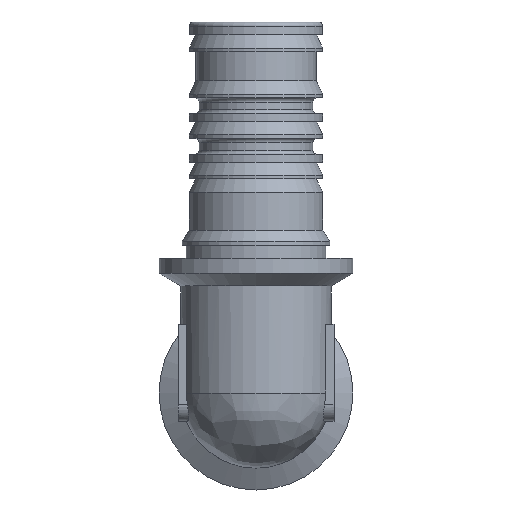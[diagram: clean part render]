
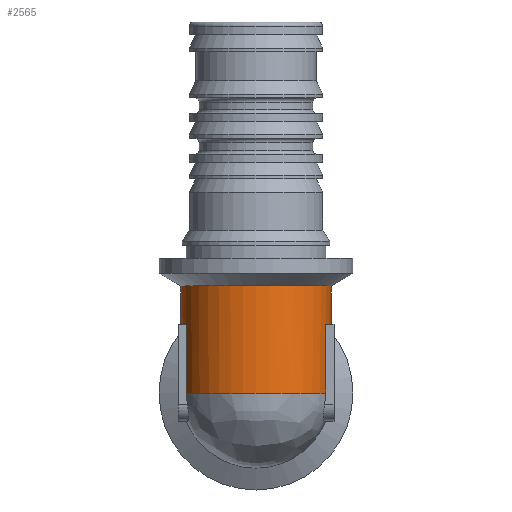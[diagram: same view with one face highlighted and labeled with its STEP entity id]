
A CAD part, front view. The second image highlights one B-rep face of the part: STEP entity #2565.
In plain terms, the highlighted cylindrical face has radius 8.9 mm (diameter 17.8 mm), a full revolution.
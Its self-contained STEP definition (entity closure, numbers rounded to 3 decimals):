
#217=FACE_OUTER_BOUND('',#368,.T.);
#368=EDGE_LOOP('',(#1955,#1956,#1957,#1958,#1959,#1960,#1961,#1962,#1963,
#1964,#1965,#1966,#1967,#1968));
#574=CIRCLE('',#2815,8.9);
#575=CIRCLE('',#2816,8.9);
#576=CIRCLE('',#2817,8.9);
#577=CIRCLE('',#2818,8.9);
#585=CIRCLE('',#2828,8.9);
#586=CIRCLE('',#2830,8.9);
#587=CIRCLE('',#2831,8.9);
#698=LINE('',#4216,#872);
#699=LINE('',#4220,#873);
#700=LINE('',#4224,#874);
#701=LINE('',#4227,#875);
#702=LINE('',#4229,#876);
#872=VECTOR('',#3323,8.9);
#873=VECTOR('',#3326,10.);
#874=VECTOR('',#3329,10.);
#875=VECTOR('',#3332,10.);
#876=VECTOR('',#3333,10.);
#1024=ELLIPSE('',#2829,12.587,8.9);
#1113=VERTEX_POINT('',#4074);
#1114=VERTEX_POINT('',#4075);
#1115=VERTEX_POINT('',#4077);
#1117=VERTEX_POINT('',#4097);
#1118=VERTEX_POINT('',#4102);
#1133=VERTEX_POINT('',#4215);
#1134=VERTEX_POINT('',#4217);
#1135=VERTEX_POINT('',#4219);
#1136=VERTEX_POINT('',#4221);
#1137=VERTEX_POINT('',#4223);
#1138=VERTEX_POINT('',#4225);
#1139=VERTEX_POINT('',#4228);
#1422=EDGE_CURVE('',#1113,#1114,#574,.T.);
#1423=EDGE_CURVE('',#1115,#1113,#575,.T.);
#1424=EDGE_CURVE('',#1114,#1115,#576,.T.);
#1427=EDGE_CURVE('',#1118,#1117,#577,.T.);
#1445=EDGE_CURVE('',#1115,#1133,#698,.T.);
#1446=EDGE_CURVE('',#1133,#1134,#585,.T.);
#1447=EDGE_CURVE('',#1134,#1135,#699,.T.);
#1448=EDGE_CURVE('',#1136,#1135,#1024,.T.);
#1449=EDGE_CURVE('',#1136,#1137,#700,.T.);
#1450=EDGE_CURVE('',#1137,#1138,#586,.T.);
#1451=EDGE_CURVE('',#1138,#1118,#701,.T.);
#1452=EDGE_CURVE('',#1117,#1139,#702,.T.);
#1453=EDGE_CURVE('',#1139,#1133,#587,.T.);
#1955=ORIENTED_EDGE('',*,*,#1422,.T.);
#1956=ORIENTED_EDGE('',*,*,#1424,.T.);
#1957=ORIENTED_EDGE('',*,*,#1445,.T.);
#1958=ORIENTED_EDGE('',*,*,#1446,.T.);
#1959=ORIENTED_EDGE('',*,*,#1447,.T.);
#1960=ORIENTED_EDGE('',*,*,#1448,.F.);
#1961=ORIENTED_EDGE('',*,*,#1449,.T.);
#1962=ORIENTED_EDGE('',*,*,#1450,.T.);
#1963=ORIENTED_EDGE('',*,*,#1451,.T.);
#1964=ORIENTED_EDGE('',*,*,#1427,.T.);
#1965=ORIENTED_EDGE('',*,*,#1452,.T.);
#1966=ORIENTED_EDGE('',*,*,#1453,.T.);
#1967=ORIENTED_EDGE('',*,*,#1445,.F.);
#1968=ORIENTED_EDGE('',*,*,#1423,.T.);
#2505=CYLINDRICAL_SURFACE('',#2827,8.9);
#2565=ADVANCED_FACE('',(#217),#2505,.T.);
#2815=AXIS2_PLACEMENT_3D('',#4076,#3295,#3296);
#2816=AXIS2_PLACEMENT_3D('',#4078,#3297,#3298);
#2817=AXIS2_PLACEMENT_3D('',#4079,#3299,#3300);
#2818=AXIS2_PLACEMENT_3D('',#4103,#3302,#3303);
#2827=AXIS2_PLACEMENT_3D('',#4214,#3321,#3322);
#2828=AXIS2_PLACEMENT_3D('',#4218,#3324,#3325);
#2829=AXIS2_PLACEMENT_3D('',#4222,#3327,#3328);
#2830=AXIS2_PLACEMENT_3D('',#4226,#3330,#3331);
#2831=AXIS2_PLACEMENT_3D('',#4230,#3334,#3335);
#3295=DIRECTION('center_axis',(0.,0.,-1.));
#3296=DIRECTION('ref_axis',(-1.,0.,0.));
#3297=DIRECTION('center_axis',(0.,0.,-1.));
#3298=DIRECTION('ref_axis',(-1.,0.,0.));
#3299=DIRECTION('center_axis',(0.,0.,-1.));
#3300=DIRECTION('ref_axis',(-1.,0.,0.));
#3302=DIRECTION('center_axis',(0.,0.,1.));
#3303=DIRECTION('ref_axis',(-1.,0.,0.));
#3321=DIRECTION('center_axis',(0.,0.,1.));
#3322=DIRECTION('ref_axis',(-1.,0.,0.));
#3323=DIRECTION('',(0.,0.,-1.));
#3324=DIRECTION('center_axis',(0.,0.,1.));
#3325=DIRECTION('ref_axis',(-1.,0.,0.));
#3326=DIRECTION('',(0.,0.,-1.));
#3327=DIRECTION('center_axis',(0.,0.707,-0.707));
#3328=DIRECTION('ref_axis',(0.,-0.707,-0.707));
#3329=DIRECTION('',(0.,0.,1.));
#3330=DIRECTION('center_axis',(0.,0.,1.));
#3331=DIRECTION('ref_axis',(-1.,0.,0.));
#3332=DIRECTION('',(0.,0.,-1.));
#3333=DIRECTION('',(0.,0.,1.));
#3334=DIRECTION('center_axis',(0.,0.,1.));
#3335=DIRECTION('ref_axis',(-1.,0.,0.));
#4074=CARTESIAN_POINT('',(0.,-52.9,12.699));
#4075=CARTESIAN_POINT('',(0.,-35.1,12.699));
#4076=CARTESIAN_POINT('Origin',(0.,-44.,12.699));
#4077=CARTESIAN_POINT('',(8.9,-44.,12.699));
#4078=CARTESIAN_POINT('Origin',(0.,-44.,12.699));
#4079=CARTESIAN_POINT('Origin',(0.,-44.,12.699));
#4097=CARTESIAN_POINT('',(8.255,-47.325,0.));
#4102=CARTESIAN_POINT('',(-8.255,-47.325,0.));
#4103=CARTESIAN_POINT('Origin',(0.,-44.,0.));
#4214=CARTESIAN_POINT('Origin',(0.,-44.,0.));
#4215=CARTESIAN_POINT('',(8.9,-44.,8.152));
#4216=CARTESIAN_POINT('',(8.9,-44.,0.));
#4217=CARTESIAN_POINT('',(7.86,-39.825,8.152));
#4218=CARTESIAN_POINT('Origin',(0.,-44.,8.152));
#4219=CARTESIAN_POINT('',(7.86,-39.825,4.175));
#4220=CARTESIAN_POINT('',(7.86,-39.825,0.));
#4221=CARTESIAN_POINT('',(-7.86,-39.825,4.175));
#4222=CARTESIAN_POINT('Origin',(0.,-44.,0.));
#4223=CARTESIAN_POINT('',(-7.86,-39.825,8.152));
#4224=CARTESIAN_POINT('',(-7.86,-39.825,0.));
#4225=CARTESIAN_POINT('',(-8.255,-47.325,8.152));
#4226=CARTESIAN_POINT('Origin',(0.,-44.,8.152));
#4227=CARTESIAN_POINT('',(-8.255,-47.325,0.));
#4228=CARTESIAN_POINT('',(8.255,-47.325,8.152));
#4229=CARTESIAN_POINT('',(8.255,-47.325,0.));
#4230=CARTESIAN_POINT('Origin',(0.,-44.,8.152));
